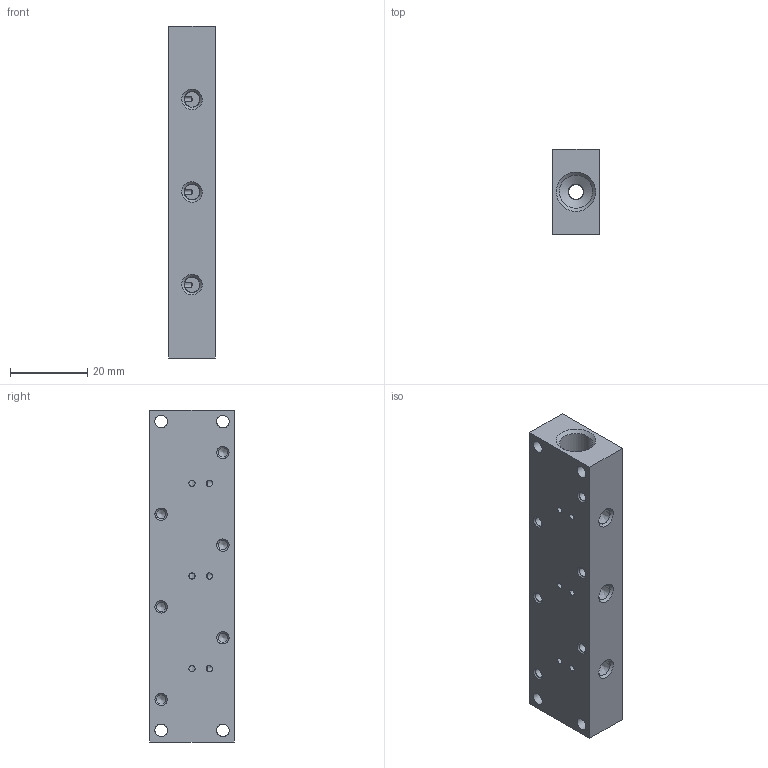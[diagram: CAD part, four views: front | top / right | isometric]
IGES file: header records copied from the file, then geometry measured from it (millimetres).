
Global section: file name: 305_08_03; native system: Autodesk Inventor 2014; preprocessor: unknown; author: A. Manieri; organization: Pneumax S.p.A.; date: 20161004.151306; units: millimetre
Bounding box: 12 x 22 x 86 mm (x, y, z)
Volume: 19672.4 mm3; surface area: 8828.3 mm2
Topology: 1 solids, 1 shells, 53 faces, 176 edges, 125 vertices
Faces by surface type: bspline 53
